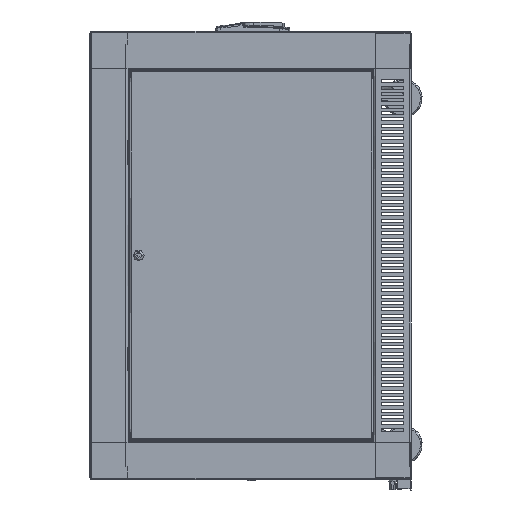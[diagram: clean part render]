
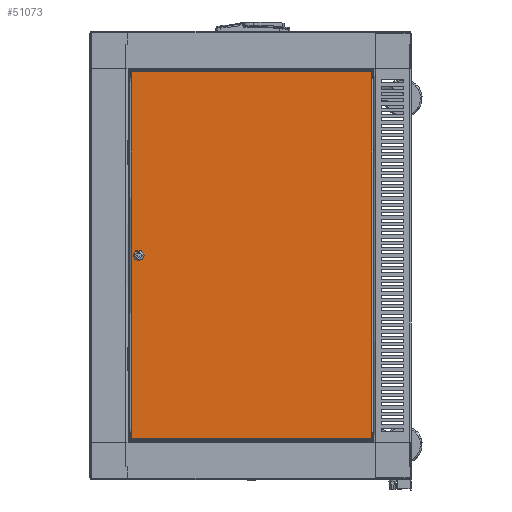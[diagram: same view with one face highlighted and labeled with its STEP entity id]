
A CAD part, left-side view. The second image highlights one B-rep face of the part: STEP entity #51073.
In plain terms, the highlighted free-form (B-spline) face has degree [1, 1] with [2, 2] control points.
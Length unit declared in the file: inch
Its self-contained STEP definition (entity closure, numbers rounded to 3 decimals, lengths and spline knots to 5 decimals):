
#49047=CARTESIAN_POINT('V183',(14.80532,18.63964,
   0.055));
#49048=VERTEX_POINT('V183',#49047);
#49054=CARTESIAN_POINT('V182',(14.68603,18.75892,
   0.055));
#49055=VERTEX_POINT('V182',#49054);
#49056=CARTESIAN_POINT('E208',(14.68603,18.75892,
   0.055));
#49057=CARTESIAN_POINT('E208',(14.80532,18.63964,
   0.055));
#49058=QUASI_UNIFORM_CURVE('E208',1,(#49056,#49057),.POLYLINE_FORM.,
   .F.,.U.);
#49059=EDGE_CURVE('E208',#49055,#49048,#49058,.T.);
#49083=CARTESIAN_POINT('V189',(14.39112,18.75892,
   0.055));
#49084=VERTEX_POINT('V189',#49083);
#49090=CARTESIAN_POINT('V188',(14.26493,18.63273,
   0.055));
#49091=VERTEX_POINT('V188',#49090);
#49092=CARTESIAN_POINT('E214',(14.26493,18.63273,
   0.055));
#49093=CARTESIAN_POINT('E214',(14.39112,18.75892,
   0.055));
#49094=QUASI_UNIFORM_CURVE('E214',1,(#49092,#49093),.POLYLINE_FORM.,
   .F.,.U.);
#49095=EDGE_CURVE('E214',#49091,#49084,#49094,.T.);
#49135=CARTESIAN_POINT('V187',(14.26493,18.39497,
   0.055));
#49136=VERTEX_POINT('V187',#49135);
#49137=CARTESIAN_POINT('E213',(14.26493,18.39497,
   0.055));
#49138=CARTESIAN_POINT('E213',(14.14605,18.51385,
   0.055));
#49139=CARTESIAN_POINT('E213',(14.26493,18.63273,
   0.055));
#49147=(BOUNDED_CURVE()B_SPLINE_CURVE(2,(#49137,#49138,#49139),
   .CIRCULAR_ARC.,.F.,.U.)CURVE()GEOMETRIC_REPRESENTATION_ITEM()
   QUASI_UNIFORM_CURVE()RATIONAL_B_SPLINE_CURVE((1.0,
   0.707,1.0))REPRESENTATION_ITEM('E213'));
#49148=EDGE_CURVE('E213',#49136,#49091,#49147,.T.);
#49171=CARTESIAN_POINT('V186',(14.44136,18.21853,
   0.055));
#49172=VERTEX_POINT('V186',#49171);
#49173=CARTESIAN_POINT('E212',(14.44136,18.21853,
   0.055));
#49174=CARTESIAN_POINT('E212',(14.26493,18.39497,
   0.055));
#49175=QUASI_UNIFORM_CURVE('E212',1,(#49173,#49174),.POLYLINE_FORM.,
   .F.,.U.);
#49176=EDGE_CURVE('E212',#49172,#49136,#49175,.T.);
#49216=CARTESIAN_POINT('V185',(14.63579,18.21853,
   0.055));
#49217=VERTEX_POINT('V185',#49216);
#49218=CARTESIAN_POINT('E211',(14.63579,18.21853,
   0.055));
#49219=CARTESIAN_POINT('E211',(14.53858,18.12132,
   0.055));
#49220=CARTESIAN_POINT('E211',(14.44136,18.21853,
   0.055));
#49228=(BOUNDED_CURVE()B_SPLINE_CURVE(2,(#49218,#49219,#49220),
   .CIRCULAR_ARC.,.F.,.U.)CURVE()GEOMETRIC_REPRESENTATION_ITEM()
   QUASI_UNIFORM_CURVE()RATIONAL_B_SPLINE_CURVE((1.0,
   0.707,1.0))REPRESENTATION_ITEM('E211'));
#49229=EDGE_CURVE('E211',#49217,#49172,#49228,.T.);
#49252=CARTESIAN_POINT('V184',(14.80532,18.38807,
   0.055));
#49253=VERTEX_POINT('V184',#49252);
#49254=CARTESIAN_POINT('E210',(14.80532,18.38807,
   0.055));
#49255=CARTESIAN_POINT('E210',(14.63579,18.21853,
   0.055));
#49256=QUASI_UNIFORM_CURVE('E210',1,(#49254,#49255),.POLYLINE_FORM.,
   .F.,.U.);
#49257=EDGE_CURVE('E210',#49253,#49217,#49256,.T.);
#49295=CARTESIAN_POINT('E209',(14.80532,18.63964,
   0.055));
#49296=CARTESIAN_POINT('E209',(14.9311,18.51385,
   0.055));
#49297=CARTESIAN_POINT('E209',(14.80532,18.38807,
   0.055));
#49305=(BOUNDED_CURVE()B_SPLINE_CURVE(2,(#49295,#49296,#49297),
   .CIRCULAR_ARC.,.F.,.U.)CURVE()GEOMETRIC_REPRESENTATION_ITEM()
   QUASI_UNIFORM_CURVE()RATIONAL_B_SPLINE_CURVE((1.0,
   0.707,1.0))REPRESENTATION_ITEM('E209'));
#49306=EDGE_CURVE('E209',#49048,#49253,#49305,.T.);
#49664=CARTESIAN_POINT('V154',(0.06,19.06,
   0.055));
#49665=VERTEX_POINT('V154',#49664);
#49679=CARTESIAN_POINT('V161',(29.0131,19.06,
   0.055));
#49680=VERTEX_POINT('V161',#49679);
#49681=CARTESIAN_POINT('E183',(0.06,19.06,
   0.055));
#49682=CARTESIAN_POINT('E183',(29.0131,19.06,
   0.055));
#49683=B_SPLINE_CURVE_WITH_KNOTS('E183',1,(#49681,#49682),
   .POLYLINE_FORM.,.F.,.U.,(2,2),(0.05541,
   0.94459),.UNSPECIFIED.);
#49684=EDGE_CURVE('E183',#49665,#49680,#49683,.T.);
#50191=CARTESIAN_POINT('V147',(29.0131,0.06,
   0.055));
#50192=VERTEX_POINT('V147',#50191);
#50193=CARTESIAN_POINT('E177',(29.0131,19.06,
   0.055));
#50194=CARTESIAN_POINT('E177',(29.0131,0.06,
   0.055));
#50195=B_SPLINE_CURVE_WITH_KNOTS('E177',1,(#50193,#50194),
   .POLYLINE_FORM.,.F.,.U.,(2,2),(0.05637,
   0.94363),.UNSPECIFIED.);
#50196=EDGE_CURVE('E177',#49680,#50192,#50195,.T.);
#51010=CARTESIAN_POINT('V146',(0.06,0.06,
   0.055));
#51011=VERTEX_POINT('V146',#51010);
#51012=CARTESIAN_POINT('E161',(29.0131,0.06,
   0.055));
#51013=CARTESIAN_POINT('E161',(0.06,0.06,
   0.055));
#51014=B_SPLINE_CURVE_WITH_KNOTS('E161',1,(#51012,#51013),
   .POLYLINE_FORM.,.F.,.U.,(2,2),(0.05541,
   0.94459),.UNSPECIFIED.);
#51015=EDGE_CURVE('E161',#50192,#51011,#51014,.T.);
#51036=CARTESIAN_POINT('F43',(30.75029,20.2,
   0.055));
#51037=CARTESIAN_POINT('F43',(-1.67719,20.2,
   0.055));
#51038=CARTESIAN_POINT('F43',(30.75029,-1.08,
   0.055));
#51039=CARTESIAN_POINT('F43',(-1.67719,-1.08,
   0.055));
#51040=B_SPLINE_SURFACE_WITH_KNOTS('F43',1,1,((#51036,#51038),(
   #51037,#51039)),.PLANE_SURF.,.F.,.F.,.U.,(2,2),(2,2),(0.0,
   1.52378),(0.0,1.0),.UNSPECIFIED.);
#51041=ORIENTED_EDGE('E161',*,*,#51015,.F.);
#51042=ORIENTED_EDGE('E177',*,*,#50196,.F.);
#51043=ORIENTED_EDGE('E183',*,*,#49684,.F.);
#51044=CARTESIAN_POINT('E170',(0.06,0.06,
   0.055));
#51045=CARTESIAN_POINT('E170',(0.06,19.06,
   0.055));
#51046=B_SPLINE_CURVE_WITH_KNOTS('E170',1,(#51044,#51045),
   .POLYLINE_FORM.,.F.,.U.,(2,2),(0.05637,
   0.94363),.UNSPECIFIED.);
#51047=EDGE_CURVE('E170',#51011,#49665,#51046,.T.);
#51048=ORIENTED_EDGE('E170',*,*,#51047,.F.);
#51049=EDGE_LOOP('F43',(#51041,#51042,#51043,#51048));
#51050=FACE_OUTER_BOUND('F43',#51049,.T.);
#51051=ORIENTED_EDGE('E209',*,*,#49306,.T.);
#51052=ORIENTED_EDGE('E210',*,*,#49257,.T.);
#51053=ORIENTED_EDGE('E211',*,*,#49229,.T.);
#51054=ORIENTED_EDGE('E212',*,*,#49176,.T.);
#51055=ORIENTED_EDGE('E213',*,*,#49148,.T.);
#51056=ORIENTED_EDGE('E214',*,*,#49095,.T.);
#51057=CARTESIAN_POINT('E215',(14.39112,18.75892,
   0.055));
#51058=CARTESIAN_POINT('E215',(14.53858,18.90638,
   0.055));
#51059=CARTESIAN_POINT('E215',(14.68603,18.75892,
   0.055));
#51067=(BOUNDED_CURVE()B_SPLINE_CURVE(2,(#51057,#51058,#51059),
   .CIRCULAR_ARC.,.F.,.U.)CURVE()GEOMETRIC_REPRESENTATION_ITEM()
   QUASI_UNIFORM_CURVE()RATIONAL_B_SPLINE_CURVE((1.0,
   0.707,1.0))REPRESENTATION_ITEM('E215'));
#51068=EDGE_CURVE('E215',#49084,#49055,#51067,.T.);
#51069=ORIENTED_EDGE('E215',*,*,#51068,.T.);
#51070=ORIENTED_EDGE('E208',*,*,#49059,.T.);
#51071=EDGE_LOOP('F43',(#51051,#51052,#51053,#51054,#51055,#51056,
   #51069,#51070));
#51072=FACE_BOUND('F43',#51071,.T.);
#51073=ADVANCED_FACE('F43',(#51050,#51072),#51040,.T.);
